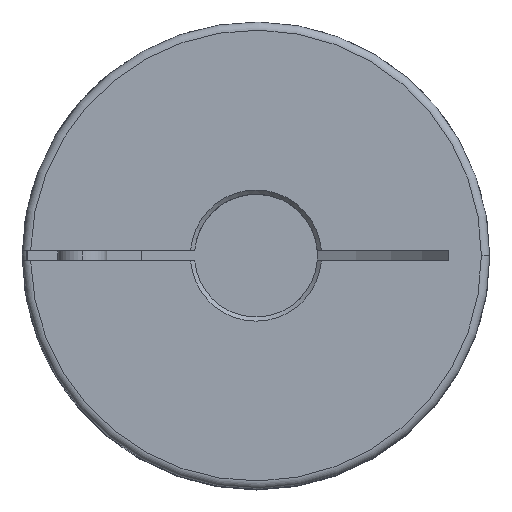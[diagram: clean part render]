
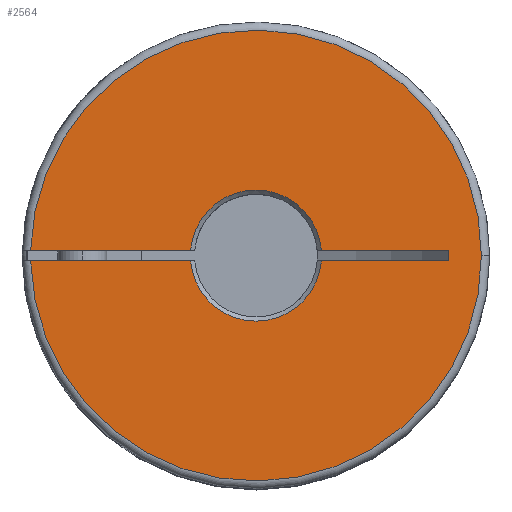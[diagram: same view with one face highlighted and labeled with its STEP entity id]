
A CAD part, top view. The second image highlights one B-rep face of the part: STEP entity #2564.
In plain terms, the highlighted planar face has unit normal (0, 0, 1).
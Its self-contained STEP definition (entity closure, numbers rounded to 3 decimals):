
#509 = DIRECTION ( 'NONE',  ( -1., 0., 0. ) ) ;
#545 = CARTESIAN_POINT ( 'NONE',  ( 23.5, -0.65, 28.4 ) ) ;
#563 = CARTESIAN_POINT ( 'NONE',  ( 0., 0., 28.4 ) ) ;
#596 = DIRECTION ( 'NONE',  ( 1., 0., 0. ) ) ;
#600 = DIRECTION ( 'NONE',  ( 0., 0., -1. ) ) ;
#641 = DIRECTION ( 'NONE',  ( -1., 0., 0. ) ) ;
#671 = CARTESIAN_POINT ( 'NONE',  ( 23.5, 0.65, 28.4 ) ) ;
#698 = PLANE ( 'NONE',  #5535 ) ;
#751 = DIRECTION ( 'NONE',  ( 0., 0., 1. ) ) ;
#761 = DIRECTION ( 'NONE',  ( 1., 0., 0. ) ) ;
#762 = CARTESIAN_POINT ( 'NONE',  ( 0., 0., 28.4 ) ) ;
#896 = CARTESIAN_POINT ( 'NONE',  ( -7.974, 0.65, 28.4 ) ) ;
#927 = CARTESIAN_POINT ( 'NONE',  ( 7.974, 0.65, 28.4 ) ) ;
#1016 = CARTESIAN_POINT ( 'NONE',  ( 23.5, -0.65, 28.4 ) ) ;
#1151 = CARTESIAN_POINT ( 'NONE',  ( -27.492, -0.65, 28.4 ) ) ;
#1155 = CARTESIAN_POINT ( 'NONE',  ( 7.974, -0.65, 28.4 ) ) ;
#1264 = CARTESIAN_POINT ( 'NONE',  ( -27.492, 0.65, 28.4 ) ) ;
#1269 = CARTESIAN_POINT ( 'NONE',  ( -7.974, -0.65, 28.4 ) ) ;
#1272 = CARTESIAN_POINT ( 'NONE',  ( 27.5, 0., 28.4 ) ) ;
#1396 = AXIS2_PLACEMENT_3D ( 'NONE', #3613, #3612, #3611 ) ;
#1422 = AXIS2_PLACEMENT_3D ( 'NONE', #2901, #2900, #2899 ) ;
#1429 = AXIS2_PLACEMENT_3D ( 'NONE', #3907, #3906, #3904 ) ;
#1886 = CARTESIAN_POINT ( 'NONE',  ( 23.5, 0.65, 28.4 ) ) ;
#1898 = DIRECTION ( 'NONE',  ( 0., -1., 0. ) ) ;
#2065 = CIRCLE ( 'NONE', #1396, 27.5 ) ;
#2564 = ADVANCED_FACE ( 'NONE', ( #3496 ), #698, .F. ) ;
#2636 = CARTESIAN_POINT ( 'NONE',  ( 23.5, 0.65, 28.4 ) ) ;
#2899 = DIRECTION ( 'NONE',  ( 0., 1., 0. ) ) ;
#2900 = DIRECTION ( 'NONE',  ( 0., 0., -1. ) ) ;
#2901 = CARTESIAN_POINT ( 'NONE',  ( 0., 0., 28.4 ) ) ;
#2950 = DIRECTION ( 'NONE',  ( -1., 0., 0. ) ) ;
#2951 = CARTESIAN_POINT ( 'NONE',  ( 23.5, 0.65, 28.4 ) ) ;
#3255 = VERTEX_POINT ( 'NONE', #927 ) ;
#3284 = VERTEX_POINT ( 'NONE', #896 ) ;
#3496 = FACE_OUTER_BOUND ( 'NONE', #6446, .T. ) ;
#3611 = DIRECTION ( 'NONE',  ( 1., 0., 0. ) ) ;
#3612 = DIRECTION ( 'NONE',  ( 0., 0., 1. ) ) ;
#3613 = CARTESIAN_POINT ( 'NONE',  ( 0., 0., 28.4 ) ) ;
#3904 = DIRECTION ( 'NONE',  ( 0., 1., 0. ) ) ;
#3906 = DIRECTION ( 'NONE',  ( 0., 0., -1. ) ) ;
#3907 = CARTESIAN_POINT ( 'NONE',  ( 0., 0., 28.4 ) ) ;
#4077 = CIRCLE ( 'NONE', #4605, 27.5 ) ;
#4096 = LINE ( 'NONE', #671, #4107 ) ;
#4107 = VECTOR ( 'NONE', #641, 1000. ) ;
#4108 = LINE ( 'NONE', #545, #4117 ) ;
#4117 = VECTOR ( 'NONE', #509, 1000. ) ;
#4132 = LINE ( 'NONE', #1886, #4134 ) ;
#4134 = VECTOR ( 'NONE', #1898, 1000. ) ;
#4442 = VECTOR ( 'NONE', #2950, 1000. ) ;
#4445 = LINE ( 'NONE', #2951, #4442 ) ;
#4460 = CIRCLE ( 'NONE', #1422, 8. ) ;
#4605 = AXIS2_PLACEMENT_3D ( 'NONE', #762, #751, #761 ) ;
#4669 = EDGE_CURVE ( 'NONE', #6603, #6310, #4077, .T. ) ;
#4681 = EDGE_CURVE ( 'NONE', #3284, #6327, #4096, .T. ) ;
#4686 = EDGE_CURVE ( 'NONE', #6316, #6603, #4108, .T. ) ;
#4710 = EDGE_CURVE ( 'NONE', #6814, #6160, #4132, .T. ) ;
#4865 = EDGE_CURVE ( 'NONE', #6814, #3255, #4445, .T. ) ;
#4878 = EDGE_CURVE ( 'NONE', #3284, #3255, #4460, .T. ) ;
#5272 = EDGE_CURVE ( 'NONE', #6160, #6598, #7323, .T. ) ;
#5428 = EDGE_CURVE ( 'NONE', #6598, #6316, #7407, .T. ) ;
#5535 = AXIS2_PLACEMENT_3D ( 'NONE', #563, #600, #596 ) ;
#5557 = EDGE_CURVE ( 'NONE', #6310, #6327, #2065, .T. ) ;
#5812 = CARTESIAN_POINT ( 'NONE',  ( 23.5, -0.65, 28.4 ) ) ;
#5818 = DIRECTION ( 'NONE',  ( -1., 0., 0. ) ) ;
#6043 = ORIENTED_EDGE ( 'NONE', *, *, #5428, .T. ) ;
#6061 = ORIENTED_EDGE ( 'NONE', *, *, #4669, .T. ) ;
#6086 = ORIENTED_EDGE ( 'NONE', *, *, #5272, .T. ) ;
#6092 = ORIENTED_EDGE ( 'NONE', *, *, #4865, .F. ) ;
#6098 = ORIENTED_EDGE ( 'NONE', *, *, #4681, .F. ) ;
#6101 = ORIENTED_EDGE ( 'NONE', *, *, #4710, .T. ) ;
#6107 = ORIENTED_EDGE ( 'NONE', *, *, #5557, .T. ) ;
#6112 = ORIENTED_EDGE ( 'NONE', *, *, #4878, .T. ) ;
#6132 = ORIENTED_EDGE ( 'NONE', *, *, #4686, .T. ) ;
#6160 = VERTEX_POINT ( 'NONE', #1016 ) ;
#6310 = VERTEX_POINT ( 'NONE', #1272 ) ;
#6316 = VERTEX_POINT ( 'NONE', #1269 ) ;
#6327 = VERTEX_POINT ( 'NONE', #1264 ) ;
#6446 = EDGE_LOOP ( 'NONE', ( #6098, #6112, #6092, #6101, #6086, #6043, #6132, #6061, #6107 ) ) ;
#6598 = VERTEX_POINT ( 'NONE', #1155 ) ;
#6603 = VERTEX_POINT ( 'NONE', #1151 ) ;
#6814 = VERTEX_POINT ( 'NONE', #2636 ) ;
#7323 = LINE ( 'NONE', #5812, #7344 ) ;
#7344 = VECTOR ( 'NONE', #5818, 1000. ) ;
#7407 = CIRCLE ( 'NONE', #1429, 8. ) ;
